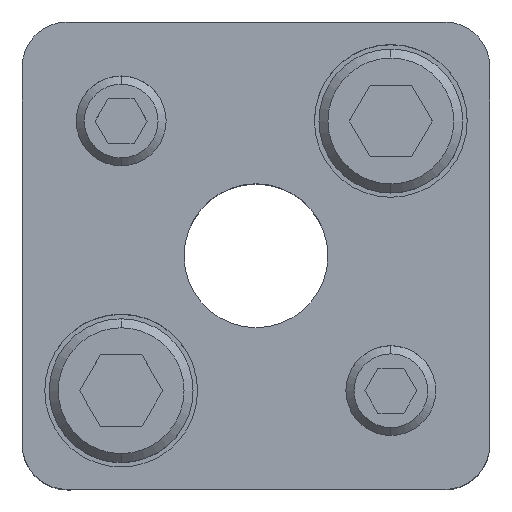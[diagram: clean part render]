
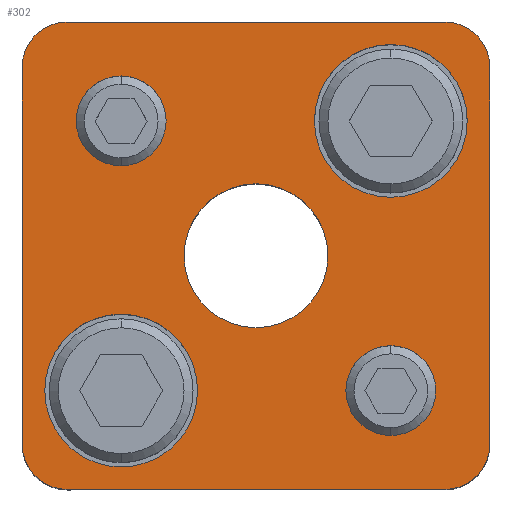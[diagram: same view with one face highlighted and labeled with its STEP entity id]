
A CAD part, top view. The second image highlights one B-rep face of the part: STEP entity #302.
In plain terms, the highlighted planar face has unit normal (0, 0, 1).
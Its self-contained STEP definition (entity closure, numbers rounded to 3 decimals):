
#161=PLANE('',#2460);
#224=FACE_BOUND('',#627,.T.);
#225=FACE_BOUND('',#628,.T.);
#226=FACE_BOUND('',#629,.T.);
#227=FACE_BOUND('',#630,.T.);
#228=FACE_BOUND('',#631,.T.);
#229=FACE_BOUND('',#632,.T.);
#302=ADVANCED_FACE('',(#224,#225,#226,#227,#228,#229),#161,.T.);
#627=EDGE_LOOP('',(#1277,#1278,#1279,#1280,#1281,#1282,#1283,#1284));
#628=EDGE_LOOP('',(#1285,#1286));
#629=EDGE_LOOP('',(#1287,#1288));
#630=EDGE_LOOP('',(#1289,#1290));
#631=EDGE_LOOP('',(#1291,#1292));
#632=EDGE_LOOP('',(#1293,#1294));
#779=LINE('',#3601,#949);
#780=LINE('',#3605,#950);
#781=LINE('',#3609,#951);
#782=LINE('',#3613,#952);
#949=VECTOR('',#2877,1.);
#950=VECTOR('',#2880,1.);
#951=VECTOR('',#2883,1.);
#952=VECTOR('',#2886,1.);
#1277=ORIENTED_EDGE('',*,*,#2005,.T.);
#1278=ORIENTED_EDGE('',*,*,#2006,.T.);
#1279=ORIENTED_EDGE('',*,*,#2007,.T.);
#1280=ORIENTED_EDGE('',*,*,#2008,.T.);
#1281=ORIENTED_EDGE('',*,*,#2009,.T.);
#1282=ORIENTED_EDGE('',*,*,#2010,.T.);
#1283=ORIENTED_EDGE('',*,*,#2011,.T.);
#1284=ORIENTED_EDGE('',*,*,#2012,.T.);
#1285=ORIENTED_EDGE('',*,*,#2013,.F.);
#1286=ORIENTED_EDGE('',*,*,#2014,.F.);
#1287=ORIENTED_EDGE('',*,*,#2015,.F.);
#1288=ORIENTED_EDGE('',*,*,#2016,.F.);
#1289=ORIENTED_EDGE('',*,*,#1991,.F.);
#1290=ORIENTED_EDGE('',*,*,#1987,.F.);
#1291=ORIENTED_EDGE('',*,*,#1985,.F.);
#1292=ORIENTED_EDGE('',*,*,#1981,.F.);
#1293=ORIENTED_EDGE('',*,*,#2017,.T.);
#1294=ORIENTED_EDGE('',*,*,#2018,.T.);
#1755=VERTEX_POINT('',#3549);
#1756=VERTEX_POINT('',#3550);
#1759=VERTEX_POINT('',#3562);
#1760=VERTEX_POINT('',#3563);
#1771=VERTEX_POINT('',#3599);
#1772=VERTEX_POINT('',#3600);
#1773=VERTEX_POINT('',#3602);
#1774=VERTEX_POINT('',#3604);
#1775=VERTEX_POINT('',#3606);
#1776=VERTEX_POINT('',#3608);
#1777=VERTEX_POINT('',#3610);
#1778=VERTEX_POINT('',#3612);
#1779=VERTEX_POINT('',#3615);
#1780=VERTEX_POINT('',#3616);
#1781=VERTEX_POINT('',#3619);
#1782=VERTEX_POINT('',#3620);
#1783=VERTEX_POINT('',#3623);
#1784=VERTEX_POINT('',#3624);
#1981=EDGE_CURVE('',#1755,#1756,#2255,.T.);
#1985=EDGE_CURVE('',#1756,#1755,#2257,.T.);
#1987=EDGE_CURVE('',#1759,#1760,#2259,.T.);
#1991=EDGE_CURVE('',#1760,#1759,#2261,.T.);
#2005=EDGE_CURVE('',#1771,#1772,#2271,.T.);
#2006=EDGE_CURVE('',#1772,#1773,#779,.T.);
#2007=EDGE_CURVE('',#1773,#1774,#2272,.T.);
#2008=EDGE_CURVE('',#1774,#1775,#780,.T.);
#2009=EDGE_CURVE('',#1775,#1776,#2273,.T.);
#2010=EDGE_CURVE('',#1776,#1777,#781,.T.);
#2011=EDGE_CURVE('',#1777,#1778,#2274,.T.);
#2012=EDGE_CURVE('',#1778,#1771,#782,.T.);
#2013=EDGE_CURVE('',#1779,#1780,#2275,.T.);
#2014=EDGE_CURVE('',#1780,#1779,#2276,.T.);
#2015=EDGE_CURVE('',#1781,#1782,#2277,.T.);
#2016=EDGE_CURVE('',#1782,#1781,#2278,.T.);
#2017=EDGE_CURVE('',#1783,#1784,#2279,.T.);
#2018=EDGE_CURVE('',#1784,#1783,#2280,.T.);
#2255=CIRCLE('',#2424,5.);
#2257=CIRCLE('',#2427,5.);
#2259=CIRCLE('',#2431,5.);
#2261=CIRCLE('',#2434,5.);
#2271=CIRCLE('',#2450,5.);
#2272=CIRCLE('',#2451,5.);
#2273=CIRCLE('',#2452,5.);
#2274=CIRCLE('',#2453,5.);
#2275=CIRCLE('',#2454,8.5);
#2276=CIRCLE('',#2455,8.5);
#2277=CIRCLE('',#2456,8.5);
#2278=CIRCLE('',#2457,8.5);
#2279=CIRCLE('',#2458,8.);
#2280=CIRCLE('',#2459,8.);
#2424=AXIS2_PLACEMENT_3D('',#3548,#2815,#2816);
#2427=AXIS2_PLACEMENT_3D('',#3557,#2823,#2824);
#2431=AXIS2_PLACEMENT_3D('',#3561,#2831,#2832);
#2434=AXIS2_PLACEMENT_3D('',#3570,#2839,#2840);
#2450=AXIS2_PLACEMENT_3D('',#3598,#2875,#2876);
#2451=AXIS2_PLACEMENT_3D('',#3603,#2878,#2879);
#2452=AXIS2_PLACEMENT_3D('',#3607,#2881,#2882);
#2453=AXIS2_PLACEMENT_3D('',#3611,#2884,#2885);
#2454=AXIS2_PLACEMENT_3D('',#3614,#2887,#2888);
#2455=AXIS2_PLACEMENT_3D('',#3617,#2889,#2890);
#2456=AXIS2_PLACEMENT_3D('',#3618,#2891,#2892);
#2457=AXIS2_PLACEMENT_3D('',#3621,#2893,#2894);
#2458=AXIS2_PLACEMENT_3D('',#3622,#2895,#2896);
#2459=AXIS2_PLACEMENT_3D('',#3625,#2897,#2898);
#2460=AXIS2_PLACEMENT_3D('',#3626,#2899,#2900);
#2815=DIRECTION('',(0.,0.,1.));
#2816=DIRECTION('',(-1.,0.,0.));
#2823=DIRECTION('',(0.,0.,1.));
#2824=DIRECTION('',(1.,0.,0.));
#2831=DIRECTION('',(0.,0.,1.));
#2832=DIRECTION('',(-1.,0.,0.));
#2839=DIRECTION('',(0.,0.,1.));
#2840=DIRECTION('',(1.,0.,0.));
#2875=DIRECTION('',(0.,0.,1.));
#2876=DIRECTION('',(-0.707,0.707,0.));
#2877=DIRECTION('',(0.,1.,0.));
#2878=DIRECTION('',(0.,0.,1.));
#2879=DIRECTION('',(-0.707,-0.707,0.));
#2880=DIRECTION('',(-1.,0.,0.));
#2881=DIRECTION('',(0.,0.,1.));
#2882=DIRECTION('',(0.707,-0.707,0.));
#2883=DIRECTION('',(0.,-1.,0.));
#2884=DIRECTION('',(0.,0.,1.));
#2885=DIRECTION('',(0.707,0.707,0.));
#2886=DIRECTION('',(1.,0.,0.));
#2887=DIRECTION('',(0.,0.,1.));
#2888=DIRECTION('',(1.,0.,0.));
#2889=DIRECTION('',(0.,0.,1.));
#2890=DIRECTION('',(-1.,0.,0.));
#2891=DIRECTION('',(0.,0.,1.));
#2892=DIRECTION('',(1.,0.,0.));
#2893=DIRECTION('',(0.,0.,1.));
#2894=DIRECTION('',(-1.,0.,0.));
#2895=DIRECTION('',(0.,0.,-1.));
#2896=DIRECTION('',(-1.,0.,0.));
#2897=DIRECTION('',(0.,0.,-1.));
#2898=DIRECTION('',(1.,0.,0.));
#2899=DIRECTION('',(0.,0.,1.));
#2900=DIRECTION('',(-1.,0.,0.));
#3548=CARTESIAN_POINT('',(15.,-15.,35.));
#3549=CARTESIAN_POINT('',(15.,-20.,35.));
#3550=CARTESIAN_POINT('',(15.,-10.,35.));
#3557=CARTESIAN_POINT('',(15.,-15.,35.));
#3561=CARTESIAN_POINT('',(-15.,15.,35.));
#3562=CARTESIAN_POINT('',(-15.,10.,35.));
#3563=CARTESIAN_POINT('',(-15.,20.,35.));
#3570=CARTESIAN_POINT('',(-15.,15.,35.));
#3598=CARTESIAN_POINT('',(21.,-21.,35.));
#3599=CARTESIAN_POINT('',(21.,-26.,35.));
#3600=CARTESIAN_POINT('',(26.,-21.,35.));
#3601=CARTESIAN_POINT('',(26.,21.,35.));
#3602=CARTESIAN_POINT('',(26.,21.,35.));
#3603=CARTESIAN_POINT('',(21.,21.,35.));
#3604=CARTESIAN_POINT('',(21.,26.,35.));
#3605=CARTESIAN_POINT('',(-21.,26.,35.));
#3606=CARTESIAN_POINT('',(-21.,26.,35.));
#3607=CARTESIAN_POINT('',(-21.,21.,35.));
#3608=CARTESIAN_POINT('',(-26.,21.,35.));
#3609=CARTESIAN_POINT('',(-26.,21.,35.));
#3610=CARTESIAN_POINT('',(-26.,-21.,35.));
#3611=CARTESIAN_POINT('',(-21.,-21.,35.));
#3612=CARTESIAN_POINT('',(-21.,-26.,35.));
#3613=CARTESIAN_POINT('',(-21.,-26.,35.));
#3614=CARTESIAN_POINT('',(15.,15.,35.));
#3615=CARTESIAN_POINT('',(15.,23.5,35.));
#3616=CARTESIAN_POINT('',(15.,6.5,35.));
#3617=CARTESIAN_POINT('',(15.,15.,35.));
#3618=CARTESIAN_POINT('',(-15.,-15.,35.));
#3619=CARTESIAN_POINT('',(-15.,-6.5,35.));
#3620=CARTESIAN_POINT('',(-15.,-23.5,35.));
#3621=CARTESIAN_POINT('',(-15.,-15.,35.));
#3622=CARTESIAN_POINT('',(0.,0.,35.));
#3623=CARTESIAN_POINT('',(0.,8.,35.));
#3624=CARTESIAN_POINT('',(0.,-8.,35.));
#3625=CARTESIAN_POINT('',(0.,0.,35.));
#3626=CARTESIAN_POINT('',(21.,-26.,35.));
